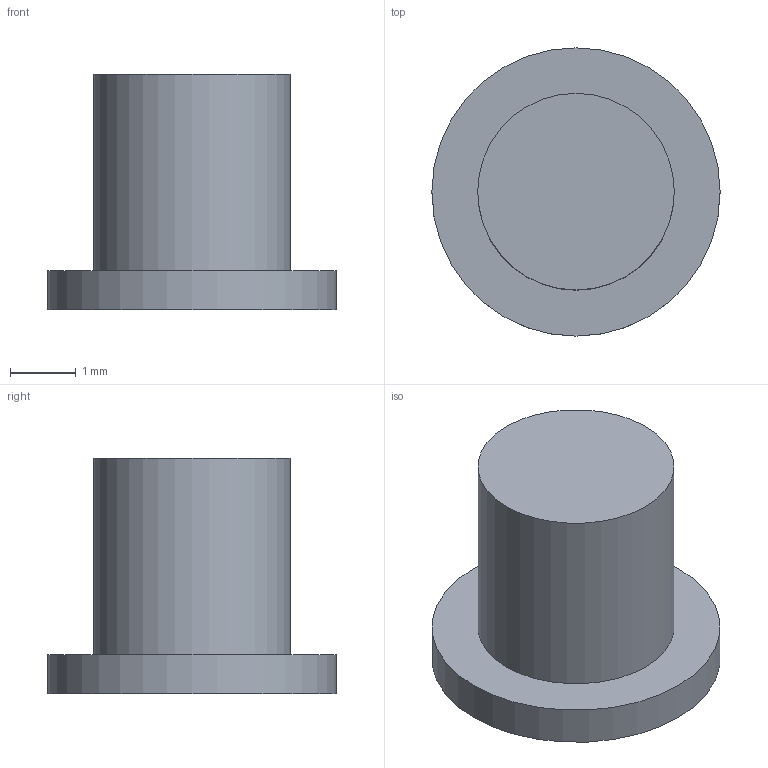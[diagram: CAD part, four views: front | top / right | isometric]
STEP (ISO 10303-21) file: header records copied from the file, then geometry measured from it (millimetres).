
FILE_DESCRIPTION(('Open CASCADE Model'),'2;1');
FILE_NAME('Open CASCADE Shape Model','2026-09-08T13:32:06',('Author'),( 'Open CASCADE'),'Open CASCADE STEP processor 7.7','Open CASCADE 7.7' ,'Unknown');
FILE_SCHEMA(('AUTOMOTIVE_DESIGN { 1 0 10303 214 1 1 1 1 }'));
Length unit declared in the file: millimetre
Products named in the file (1): Open CASCADE STEP translator 7.7 5
Bounding box: 4.4 x 4.4 x 3.6 mm (x, y, z)
Volume: 30.3 mm3; surface area: 67 mm2
Topology: 1 solids, 1 shells, 5 faces, 6 edges, 4 vertices
Faces by surface type: plane 3, cylinder 2
Full cylindrical faces by diameter (mm): 3 x1, 4.4 x1
Entity records: 192 total; most frequent: DIRECTION 34, CARTESIAN_POINT 28, ORIENTED_EDGE 12, PCURVE 12, DEFINITIONAL_REPRESENTATION 12, AXIS2_PLACEMENT_3D 10, LINE 10, VECTOR 10
